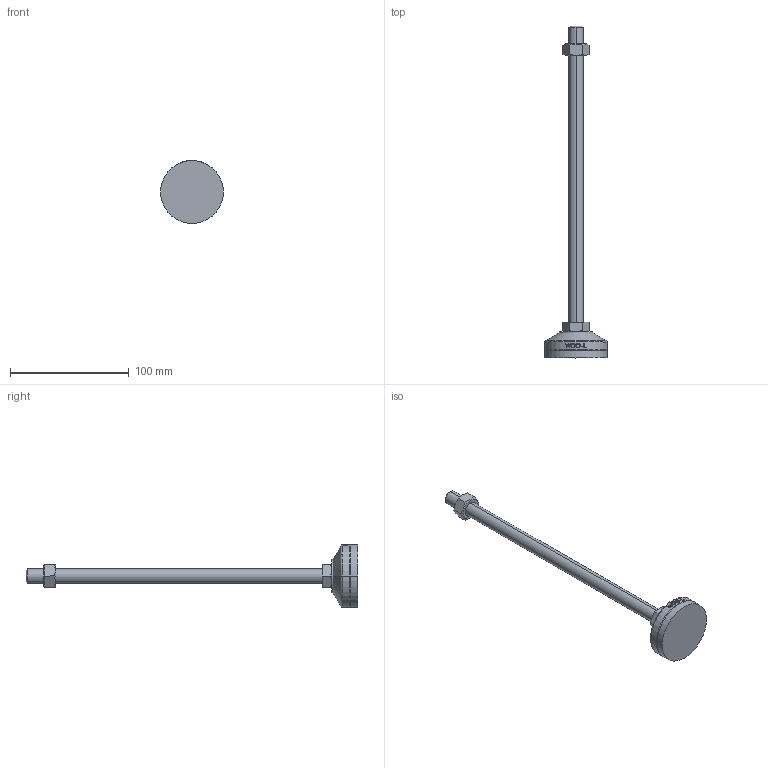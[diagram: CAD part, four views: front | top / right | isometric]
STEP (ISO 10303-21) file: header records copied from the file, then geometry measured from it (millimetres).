
FILE_DESCRIPTION (( 'STEP AP214' ), '1' );
FILE_NAME ('MFR53-M12-250.step', '2021-01-13T05:35:15', ( '' ), ( '' ), 'SwSTEP 2.0', 'SolidWorks 2019', '' );
FILE_SCHEMA (( 'AUTOMOTIVE_DESIGN' ));
Length unit declared in the file: millimetre
Products named in the file (2): MFR53-M12-250
Bounding box: 53 x 280 x 53 mm (x, y, z)
Volume: 73640.3 mm3; surface area: 23290.1 mm2
Topology: 4 solids, 4 shells, 103 faces, 235 edges, 150 vertices
Faces by surface type: plane 49, cylinder 18, bspline 16, cone 14, torus 6
Entity records: 4309 total; most frequent: CARTESIAN_POINT 2036, ORIENTED_EDGE 470, DIRECTION 417, EDGE_CURVE 235, AXIS2_PLACEMENT_3D 159, VERTEX_POINT 150, EDGE_LOOP 115, ADVANCED_FACE 103
